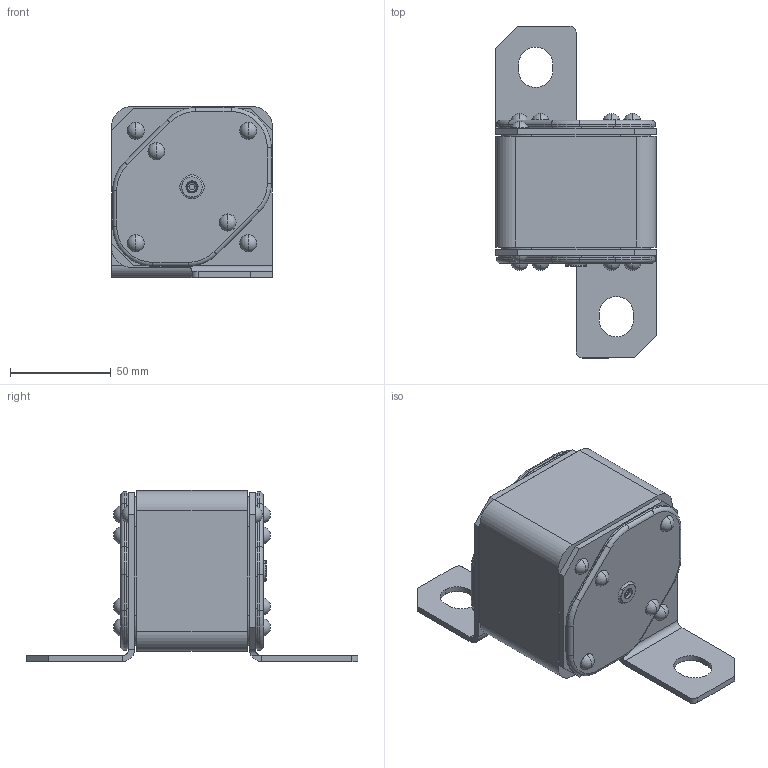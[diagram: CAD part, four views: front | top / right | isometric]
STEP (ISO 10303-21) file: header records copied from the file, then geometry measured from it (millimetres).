
FILE_DESCRIPTION (( 'STEP AP214' ), '1' );
FILE_NAME ('砎槼隰譇膻蠈錪 珫57-39370-XXXA-XXXX-忡曖.STEP', '2023-05-11T12:27:47', ( '' ), ( '' ), 'SwSTEP 2.0', 'SolidWorks 2018', '' );
FILE_SCHEMA (( 'AUTOMOTIVE_DESIGN' ));
Length unit declared in the file: millimetre
Products named in the file (1): 砎槼隰譇膻蠈錪 珫57-39370-XXXA-XXXX-忡曖
Bounding box: 80 x 165 x 85 mm (x, y, z)
Volume: 433054.7 mm3; surface area: 58810.7 mm2
Topology: 1 solids, 19 shells, 433 faces, 1002 edges, 636 vertices
Faces by surface type: cylinder 176, plane 153, torus 48, cone 32, sphere 24
Entity records: 17437 total; most frequent: DIRECTION 2372, CARTESIAN_POINT 2321, ORIENTED_EDGE 2004, EDGE_CURVE 1002, AXIS2_PLACEMENT_3D 955, VERTEX_POINT 636, CIRCLE 521, EDGE_LOOP 490
